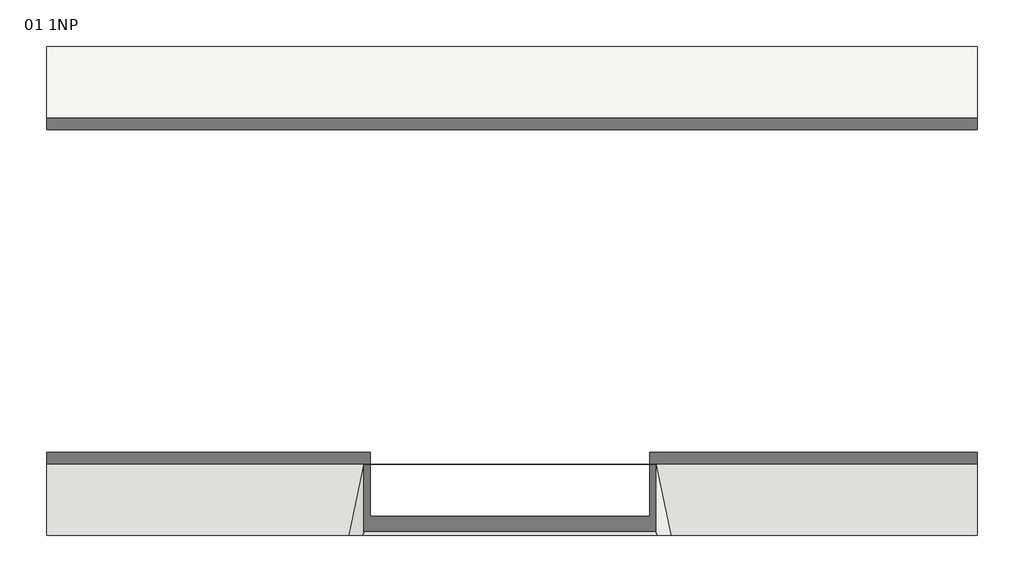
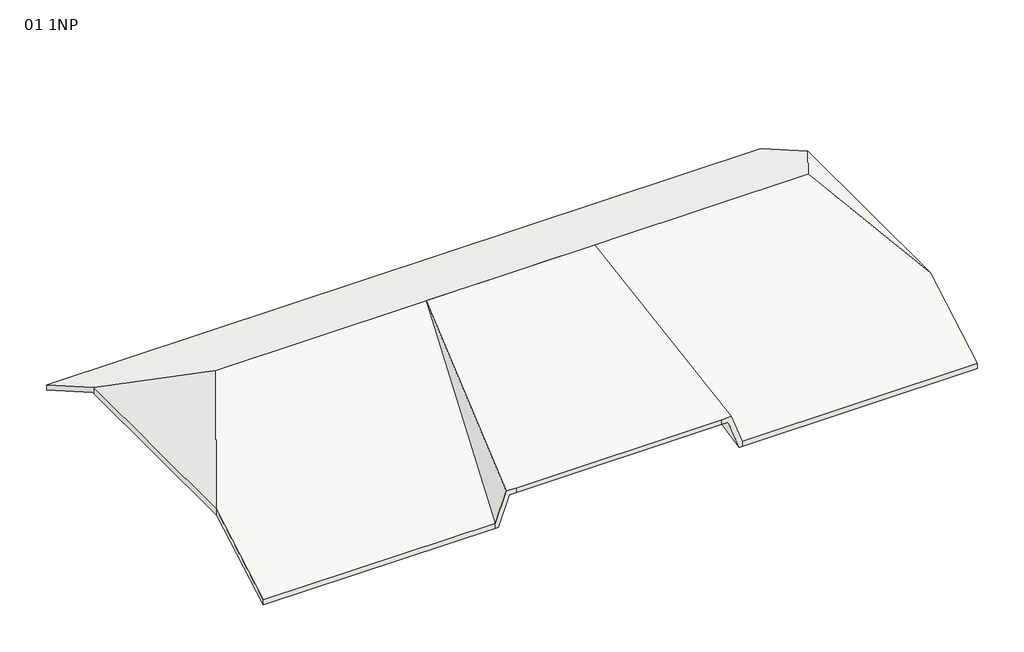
# One storey: 1 roof.
"""IFC4 building model written with IfcOpenShell, lengths in millimetres."""

from ifc_helpers import new_model, si_unit, origin, place, context, project, spatial, faceted_brep, element, save

model = new_model("IFC4")

# Units and contexts
model_context = context("Model", 3, world=origin())
ifc_project = project(units=[si_unit("LENGTHUNIT", "METRE", prefix="MILLI")], contexts=[model_context])

# Site, building, storey
site = spatial("IfcSite", under=ifc_project)
building = spatial("IfcBuilding", under=site)
storey = spatial("IfcBuildingStorey", under=building, Name="01 1NP", Elevation=0.0)

# Roof
placement = place(None, origin())
element("IfcRoof", 1, ObjectType="Standardní 150mm", at=placement, inside=storey, context=model_context, shape_type="Brep", body=[
    faceted_brep([(-32027.4957067, 52252.3036599, 0.0), (-32027.4957067, 49644.1466755, 1500.0), (-34064.4760554, 46102.3036599, 3536.9803487), (-41111.4972718, 46102.3036599, 3536.9803487), (-41113.7047322, 46091.7581034, 3543.045296), (-46441.2866813, 46091.7581034, 3543.045296), (-46443.4941416, 46102.3036599, 3536.9803487), (-53390.5153581, 46102.3036599, 3536.9803487), (-55427.4957067, 49644.1466755, 1500.0), (-55427.4957067, 52252.3036599, 0.0), (-32027.4957067, 49576.1710203, 1712.1320344), (-32027.4957067, 52252.3036599, 173.0379601), (-55427.4957067, 52252.3036599, 173.0379601), (-55427.4957067, 49576.1710203, 1712.1320344), (-53429.6094324, 46102.3036599, 3710.0183087), (-34025.3819811, 46102.3036599, 3710.0183087), (-55427.4957067, 49576.1710203, 1500.0), (-32027.4957067, 42628.4362996, 1712.1320344), (-32027.4957067, 39952.3036599, 173.0379601), (-32027.4957067, 39952.3036599, 0.0), (-32027.4957067, 42560.4606443, 1500.0), (-32027.4957067, 42628.4362996, 1500.0), (-47366.8794735, 39952.3036599, 1000.0), (-47730.8497077, 39952.3036599, 0.0), (-39824.1417058, 39952.3036599, 0.0), (-40188.11194, 39952.3036599, 1000.0), (-47827.4957067, 39952.3036599, 173.0379601), (-47467.4123579, 39952.3036599, 1162.35883), (-46540.4602602, 46100.7743737, 3709.1387876), (-39727.4957067, 39952.3036599, 173.0379601), (-41014.5311533, 46100.7743737, 3709.1387876), (-40087.5790556, 39952.3036599, 1162.35883), (-47127.4957067, 39952.3036599, 1000.0), (-40427.4957067, 39952.3036599, 1000.0), (-47127.4957067, 39952.3036599, 1162.35883), (-40427.4957067, 39952.3036599, 1162.35883), (-47827.4957067, 39952.3036599, 0.0), (-39727.4957067, 39952.3036599, 0.0), (-55427.4957067, 39952.3036599, 0.0), (-55427.4957067, 42560.4606443, 1500.0), (-55427.4957067, 39952.3036599, 173.0379601), (-32027.4957067, 49576.1710203, 1500.0), (-55427.4957067, 42628.4362996, 1500.0), (-55427.4957067, 42628.4362996, 1712.1320344)], [[[0, 1, 2, 3, 4, 5, 6, 7, 8, 9]], [[10, 11, 12, 13, 14, 15]], [[9, 12, 11, 0]], [[13, 12, 9, 8, 16]], [[17, 18, 19, 20, 21]], [[22, 23, 6, 5]], [[24, 25, 4, 3]], [[26, 27, 28]], [[29, 30, 31]], [[32, 22, 5, 4, 25, 33]], [[34, 35, 31, 30, 28, 27]], [[33, 35, 34, 32]], [[34, 27, 26, 36, 23, 22, 32]], [[29, 31, 35, 33, 25, 24, 37]], [[23, 36, 38, 39, 7, 6]], [[36, 26, 40, 38]], [[24, 3, 2, 20, 19, 37]], [[20, 2, 1, 41, 21]], [[8, 7, 39, 42, 16]], [[26, 28, 30, 29, 18, 17, 15, 14, 43, 40]], [[17, 10, 15]], [[13, 43, 14]], [[19, 18, 29, 37]], [[41, 10, 17, 21]], [[42, 43, 13, 16]], [[11, 10, 41, 1, 0]], [[40, 43, 42, 39, 38]]]),
])

save(model, "model.ifc")
